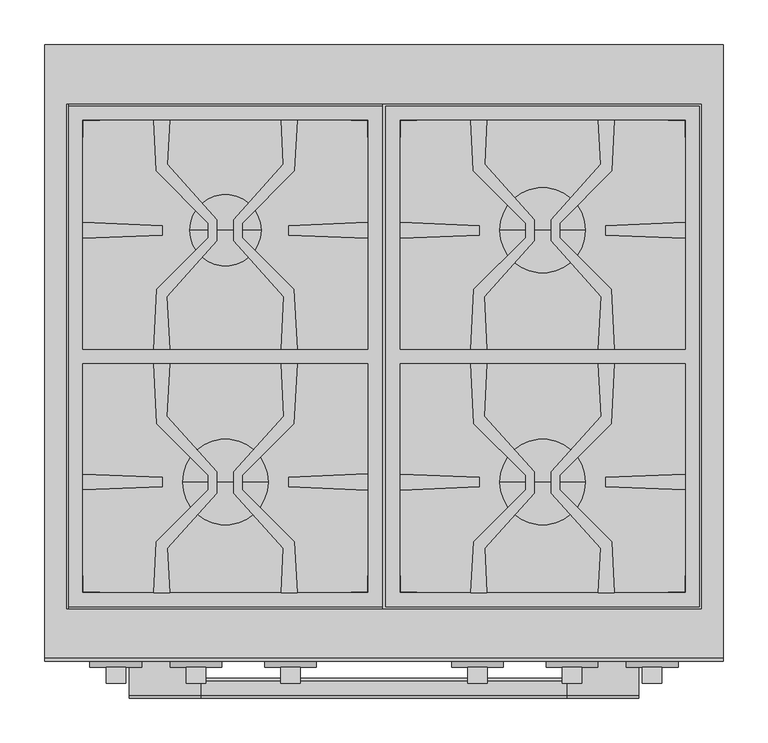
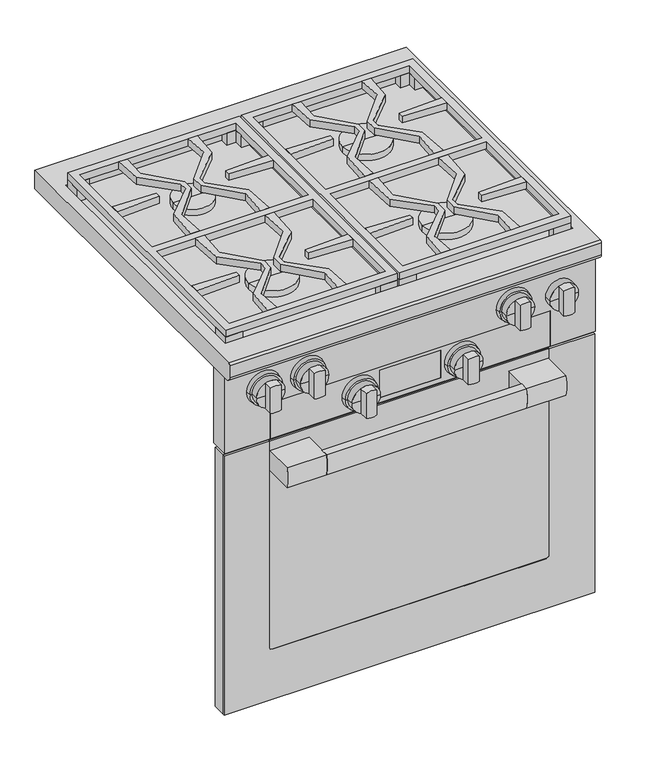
"""IFC4 building model written with IfcOpenShell, lengths in millimetres: proxy geometry, 11791390_USA_HR1124-3LP_EDST-CLS : 25112482_USA_11791390_HR1124-3LP_EDST-CLS."""

from ifc_helpers import new_model, si_unit, point, frame, frame_2d, origin, place, context, project, spatial, polyline, circle_curve, trimmed, segment, composite_curve, outline, extrude, faceted_brep, source, transform, mapped, element, save
from ifc_brep_helpers import plane_surface, cylinder_surface, revolved_surface, advanced_brep


def specialty_equipment_1acf6e52(model_context):
    return source(origin(), model_context, "Body", "SolidModel", [
        extrude(outline(composite_curve([segment(polyline([(-714.0, 624.0), (-731.0, 624.0)]), True, "CONTINUOUS"), segment(trimmed(circle_curve(frame_2d((-655.4583333, 645.5)), 78.5416667), [point((-731.0, 624.0))], [point((-731.0, 667.0))], False, "CARTESIAN"), True, "CONTINUOUS"), segment(polyline([(-731.0, 667.0), (-714.0, 667.0)]), True, "CONTINUOUS"), segment(trimmed(circle_curve(frame_2d((-789.5416667, 645.5)), 78.5416667), [point((-714.0, 667.0))], [point((-714.0, 624.0))], False, "CARTESIAN"), True, "CONTINUOUS")], self_intersect=False)), frame((-205.0, 0.0, 0.0), z_axis=(1.0, 0.0, 0.0), x_axis=(0.0, 1.0, 0.0)), (0.0, 0.0, 1.0), 410.0),
        extrude(outline(composite_curve([segment(polyline([(-731.0, 667.0), (-668.7, 667.0), (-668.7, 624.0), (-731.0, 624.0)]), True, "CONTINUOUS"), segment(trimmed(circle_curve(frame_2d((-655.4583333, 645.5)), 78.5416667), [point((-731.0, 624.0))], [point((-731.0, 667.0))], False, "CARTESIAN"), True, "CONTINUOUS")], self_intersect=False)), frame((205.0, 0.0, 0.0), z_axis=(1.0, 0.0, 0.0), x_axis=(0.0, 1.0, 0.0)), (0.0, 0.0, 1.0), 81.0),
        extrude(outline(composite_curve([segment(polyline([(-668.7, 667.0), (-668.7, 624.0), (-731.0, 624.0)]), True, "CONTINUOUS"), segment(trimmed(circle_curve(frame_2d((-655.4583333, 645.5)), 78.5416667), [point((-731.0, 624.0))], [point((-731.0, 667.0))], False, "CARTESIAN"), True, "CONTINUOUS"), segment(polyline([(-731.0, 667.0), (-668.7, 667.0)]), True, "CONTINUOUS")], self_intersect=False)), frame((-286.0, 0.0, 0.0), z_axis=(1.0, 0.0, 0.0), x_axis=(0.0, 1.0, 0.0)), (0.0, 0.0, 1.0), 81.0),
        extrude(outline(polyline([(-380.0, -638.0), (380.0, -638.0), (380.0, -664.7), (-380.0, -664.7), (-380.0, -638.0)])), frame((0.0, 0.0, 127.0), z_axis=(0.0, 0.0, 1.0), x_axis=(1.0, 0.0, 0.0)), (0.0, 0.0, 1.0), 561.0),
        extrude(outline(polyline([(-379.0, -664.7), (379.0, -664.7), (379.0, -668.7), (-379.0, -668.7), (-379.0, -664.7)])), frame((0.0, 0.0, 128.0), z_axis=(0.0, 0.0, 1.0), x_axis=(1.0, 0.0, 0.0)), (0.0, 0.0, 1.0), 559.0),
        advanced_brep(
        [(287.0, -664.7, 688.0), (380.0, -664.7, 688.0), (380.0, -664.7, 127.0), (-380.0, -664.7, 127.0), (-380.0, -664.7, 688.0), (-287.0, -664.7, 688.0), (-287.0, -664.7, 687.0), (-379.0, -664.7, 687.0), (-379.0, -664.7, 128.0), (379.0, -664.7, 128.0), (379.0, -664.7, 687.0), (287.0, -664.7, 687.0), (-287.0, -670.0, 688.0), (-380.0, -670.0, 688.0), (-380.0, -670.0, 127.0), (380.0, -670.0, 127.0), (380.0, -670.0, 688.0), (287.0, -670.0, 688.0), (287.0, -670.0, 241.0), (281.0, -670.0, 235.0), (-281.0, -670.0, 235.0), (-287.0, -670.0, 241.0), (-287.0, -668.7, 241.0), (-287.0, -668.7, 687.0), (281.0, -668.7, 235.0), (-281.0, -668.7, 235.0), (287.0, -668.7, 687.0), (287.0, -668.7, 241.0), (379.0, -668.7, 687.0), (379.0, -668.7, 128.0), (-379.0, -668.7, 128.0), (-379.0, -668.7, 687.0)],
        [
            (0, 1),
            (1, 2),
            (2, 3),
            (3, 4),
            (4, 5),
            (5, 6),
            (6, 7),
            (7, 8),
            (8, 9),
            (9, 10),
            (10, 11),
            (11, 0),
            (12, 13),
            (13, 14),
            (14, 15),
            (15, 16),
            (16, 17),
            (17, 18),
            (18, 19, circle_curve(frame((281.0, -670.0, 241.0), z_axis=(0.0, 1.0, 0.0), x_axis=(-1.0, 0.0, 0.0)), 6.0)),
            (19, 20),
            (20, 21, circle_curve(frame((-281.0, -670.0, 241.0), z_axis=(0.0, 1.0, 0.0), x_axis=(-1.0, 0.0, 0.0)), 6.0)),
            (21, 12),
            (21, 22),
            (22, 23),
            (23, 6),
            (5, 12),
            (19, 24),
            (24, 25),
            (25, 20),
            (17, 0),
            (11, 26),
            (26, 27),
            (27, 18),
            (16, 1),
            (15, 2),
            (14, 3),
            (13, 4),
            (25, 22, circle_curve(frame((-281.0, -668.7, 241.0), z_axis=(0.0, 1.0, 0.0), x_axis=(-1.0, 0.0, 0.0)), 6.0)),
            (27, 24, circle_curve(frame((281.0, -668.7, 241.0), z_axis=(0.0, 1.0, 0.0), x_axis=(-1.0, 0.0, 0.0)), 6.0)),
            (28, 29),
            (29, 30),
            (30, 31),
            (31, 23),
            (26, 28),
            (28, 10),
            (9, 29),
            (8, 30),
            (7, 31),
        ],
        [
            plane_surface(frame((-287.0, -664.7, 241.0), z_axis=(0.0, 1.0, 0.0), x_axis=(0.0, 0.0, -1.0))),
            plane_surface(frame((-287.0, -670.0, 241.0), z_axis=(0.0, -1.0, 0.0), x_axis=(0.0, 0.0, 1.0))),
            plane_surface(frame((-287.0, -664.7, 688.0), z_axis=(1.0, 0.0, 0.0), x_axis=(0.0, -1.0, 0.0))),
            plane_surface(frame((-281.0, -664.7, 235.0), z_axis=(0.0, 0.0, 1.0), x_axis=(0.0, -1.0, 0.0))),
            plane_surface(frame((287.0, -664.7, 241.0), z_axis=(-1.0, 0.0, 0.0), x_axis=(0.0, -1.0, 0.0))),
            plane_surface(frame((287.0, -664.7, 688.0), z_axis=(0.0, 0.0, 1.0), x_axis=(0.0, -1.0, 0.0))),
            plane_surface(frame((380.0, -664.7, 688.0), z_axis=(1.0, 0.0, 0.0), x_axis=(0.0, -1.0, 0.0))),
            plane_surface(frame((380.0, -664.7, 127.0), z_axis=(0.0, 0.0, -1.0), x_axis=(0.0, -1.0, 0.0))),
            plane_surface(frame((-380.0, -664.7, 127.0), z_axis=(-1.0, 0.0, 0.0), x_axis=(0.0, -1.0, 0.0))),
            plane_surface(frame((-380.0, -664.7, 688.0), z_axis=(0.0, 0.0, 1.0), x_axis=(0.0, -1.0, 0.0))),
            revolved_surface(polyline([(-287.0, -670.0, 241.0), (-287.0, -668.7, 241.0)]), (-281.0, -670.0, 241.0), (0.0, -1.0, 0.0)),
            revolved_surface(polyline([(275.0, -670.0, 241.0), (275.0, -668.7, 241.0)]), (281.0, -670.0, 241.0), (0.0, -1.0, 0.0)),
            plane_surface(frame((379.0, -668.7, 687.0), z_axis=(0.0, 1.0, 0.0), x_axis=(0.0, 0.0, 1.0))),
            plane_surface(frame((379.0, -664.7, 687.0), z_axis=(-1.0, 0.0, 0.0), x_axis=(0.0, -1.0, 0.0))),
            plane_surface(frame((379.0, -664.7, 128.0), z_axis=(0.0, 0.0, 1.0), x_axis=(0.0, -1.0, 0.0))),
            plane_surface(frame((-379.0, -664.7, 128.0), z_axis=(1.0, 0.0, 0.0), x_axis=(0.0, -1.0, 0.0))),
            plane_surface(frame((-379.0, -664.7, 687.0), z_axis=(0.0, 0.0, -1.0), x_axis=(0.0, -1.0, 0.0))),
        ],
        [
            (0, [[1, 2, 3, 4, 5, 6, 7, 8, 9, 10, 11, 12]]),
            (1, [[13, 14, 15, 16, 17, 18, 19, 20, 21, 22]]),
            (2, [[-22, 23, 24, 25, -6, 26]]),
            (3, [[-20, 27, 28, 29]]),
            (4, [[-18, 30, -12, 31, 32, 33]]),
            (5, [[-1, -30, -17, 34]]),
            (6, [[-2, -34, -16, 35]]),
            (7, [[-3, -35, -15, 36]]),
            (8, [[-4, -36, -14, 37]]),
            (9, [[-5, -37, -13, -26]]),
            (10, [[-21, -29, 38, -23]]),
            (11, [[-19, -33, 39, -27]]),
            (12, [[40, 41, 42, 43, -24, -38, -28, -39, -32, 44]]),
            (13, [[-40, 45, -10, 46]]),
            (14, [[-41, -46, -9, 47]]),
            (15, [[-42, -47, -8, 48]]),
            (16, [[-45, -44, -31, -11]]),
            (16, [[-48, -7, -25, -43]]),
        ],
    ),
        extrude(outline(polyline([(-351.0, -617.0), (351.0, -617.0), (351.0, -638.0), (-351.0, -638.0), (-351.0, -617.0)])), frame((0.0, 0.0, 133.0), z_axis=(0.0, 0.0, 1.0), x_axis=(1.0, 0.0, 0.0)), (0.0, 0.0, 1.0), 550.0),
        extrude(outline(polyline([(97.4177304, -358.0273828), (115.4174107, -358.0273828), (112.3474419, -416.9894265), (168.4590566, -479.568392), (168.4590566, -503.4471434), (112.8930533, -565.5024535), (115.5051055, -615.0212482), (97.5054252, -615.0212482), (100.4706458, -558.0710081), (158.8494553, -499.6921986), (158.8494553, -483.3657133), (100.9764383, -425.4926963), (97.4177304, -358.0273828)])), frame((0.0, 0.0, 914.0), z_axis=(0.0, 0.0, 1.0), x_axis=(1.0, 0.0, 0.0)), (0.0, 0.0, 1.0), 15.0),
        extrude(outline(polyline([(243.5666917, -416.9448139), (240.4588735, -358.0273828), (258.4534566, -358.0273828), (254.9434746, -425.4403498), (197.0712231, -483.3126013), (197.0712231, -499.6295194), (255.5438392, -558.1021355), (258.5462487, -615.0212482), (240.541471, -615.0212482), (243.1220648, -565.4581775), (187.4590702, -503.3795395), (187.4590702, -479.6049953), (243.5666917, -416.9448139)])), frame((0.0, 0.0, 914.0), z_axis=(0.0, 0.0, 1.0), x_axis=(1.0, 0.0, 0.0)), (0.0, 0.0, 1.0), 15.0),
        extrude(outline(polyline([(-258.5822696, -358.0273828), (-240.5825893, -358.0273828), (-243.6525581, -416.9894265), (-187.5409434, -479.568392), (-187.5409434, -503.4471434), (-243.1069467, -565.5024535), (-240.4948945, -615.0212482), (-258.4945748, -615.0212482), (-255.5293542, -558.0710081), (-197.1505447, -499.6921986), (-197.1505447, -483.3657133), (-255.0235617, -425.4926963), (-258.5822696, -358.0273828)])), frame((0.0, 0.0, 914.0), z_axis=(0.0, 0.0, 1.0), x_axis=(1.0, 0.0, 0.0)), (0.0, 0.0, 1.0), 15.0),
        extrude(outline(polyline([(-115.5411265, -358.0273828), (-97.5465434, -358.0273828), (-101.0565254, -425.4403498), (-158.9287769, -483.3126013), (-158.9287769, -499.6295194), (-100.4561608, -558.1021355), (-97.4537513, -615.0212482), (-115.458529, -615.0212482), (-112.8779352, -565.4581775), (-168.5409298, -503.3795395), (-168.5409298, -479.6049953), (-112.4333083, -416.9448139), (-115.5411265, -358.0273828)])), frame((0.0, 0.0, 914.0), z_axis=(0.0, 0.0, 1.0), x_axis=(1.0, 0.0, 0.0)), (0.0, 0.0, 1.0), 15.0),
        extrude(outline(polyline([(-258.5385862, -85.0), (-240.5385862, -85.0), (-243.1338026, -134.5196799), (-187.5, -196.6082182), (-187.5, -220.3917818), (-243.6289218, -283.0328838), (-240.5385862, -342.0), (-258.5385862, -342.0), (-255.0028157, -274.5334805), (-197.1108918, -216.6415566), (-197.1108918, -200.3584434), (-255.5558783, -141.9134569), (-258.5385862, -85.0)])), frame((0.0, 0.0, 914.0), z_axis=(0.0, 0.0, 1.0), x_axis=(1.0, 0.0, 0.0)), (0.0, 0.0, 1.0), 15.0),
        extrude(outline(polyline([(-115.5, -85.0), (-97.5, -85.0), (-100.4827079, -141.9134569), (-158.8891082, -200.3198573), (-158.8891082, -216.6801428), (-101.0357705, -274.5334805), (-97.5, -342.0), (-115.5, -342.0), (-112.4096644, -283.0328839), (-168.5, -220.4348449), (-168.5, -196.5651551), (-112.9047835, -134.5196799), (-115.5, -85.0)])), frame((0.0, 0.0, 914.0), z_axis=(0.0, 0.0, 1.0), x_axis=(1.0, 0.0, 0.0)), (0.0, 0.0, 1.0), 15.0),
        extrude(outline(polyline([(115.4614138, -85.0), (112.8661974, -134.5196799), (168.5, -196.6082182), (168.5, -220.3917818), (112.3710782, -283.0328838), (115.4614138, -342.0), (97.4614138, -342.0), (100.9971843, -274.5334805), (158.8891082, -216.6415566), (158.8891082, -200.3584434), (100.4441217, -141.9134569), (97.4614138, -85.0), (115.4614138, -85.0)])), frame((0.0, 0.0, 914.0), z_axis=(0.0, 0.0, 1.0), x_axis=(1.0, 0.0, 0.0)), (0.0, 0.0, 1.0), 15.0),
        extrude(outline(polyline([(243.0952165, -134.5196799), (240.5, -85.0), (258.5, -85.0), (255.5172921, -141.9134569), (197.1108918, -200.3198573), (197.1108918, -216.6801428), (254.9642295, -274.5334805), (258.5, -342.0), (240.5, -342.0), (243.5903356, -283.0328839), (187.5, -220.4348449), (187.5, -196.5651551), (243.0952165, -134.5196799)])), frame((0.0, 0.0, 914.0), z_axis=(0.0, 0.0, 1.0), x_axis=(1.0, 0.0, 0.0)), (0.0, 0.0, 1.0), 15.0),
        extrude(outline(polyline([(354.0, -69.0), (354.0, -631.0), (2.0, -631.0), (2.0, -69.0), (354.0, -69.0)])), frame((0.0, 0.0, 870.0), z_axis=(0.0, 0.0, 1.0), x_axis=(1.0, 0.0, 0.0)), (0.0, 0.0, 1.0), 17.0),
        extrude(outline(polyline([(-2.0, -67.0), (-2.0, -633.0), (-354.0, -633.0), (-354.0, -67.0), (-2.0, -67.0)])), frame((0.0, 0.0, 870.0), z_axis=(0.0, 0.0, 1.0), x_axis=(1.0, 0.0, 0.0)), (0.0, 0.0, 1.0), 17.0),
        extrude(outline(polyline([(-249.0, -213.7921261), (-338.0, -217.4578849), (-338.0, -199.5421151), (-249.0, -203.2078739), (-249.0, -213.7921261)])), frame((0.0, 0.0, 914.0), z_axis=(0.0, 0.0, 1.0), x_axis=(1.0, 0.0, 0.0)), (0.0, 0.0, 1.0), 15.0),
        extrude(outline(polyline([(-18.0, -199.5029948), (-18.0, -217.4970052), (-107.0, -213.7790477), (-107.0, -203.2209523), (-18.0, -199.5029948)])), frame((0.0, 0.0, 914.0), z_axis=(0.0, 0.0, 1.0), x_axis=(1.0, 0.0, 0.0)), (0.0, 0.0, 1.0), 15.0),
        extrude(outline(polyline([(-249.0, -496.2921261), (-338.0, -499.9578849), (-338.0, -482.0421151), (-249.0, -485.7078739), (-249.0, -496.2921261)])), frame((0.0, 0.0, 914.0), z_axis=(0.0, 0.0, 1.0), x_axis=(1.0, 0.0, 0.0)), (0.0, 0.0, 1.0), 15.0),
        extrude(outline(polyline([(-18.0, -482.0029948), (-18.0, -499.9970052), (-107.0, -496.2790477), (-107.0, -485.7209523), (-18.0, -482.0029948)])), frame((0.0, 0.0, 914.0), z_axis=(0.0, 0.0, 1.0), x_axis=(1.0, 0.0, 0.0)), (0.0, 0.0, 1.0), 15.0),
        extrude(outline(polyline([(-2.0, -631.0), (-37.0, -631.0), (-37.0, -615.0), (-18.0, -615.0), (-18.0, -596.0), (-2.0, -596.0), (-2.0, -631.0)])), frame((0.0, 0.0, 887.0), z_axis=(0.0, 0.0, 1.0), x_axis=(1.0, 0.0, 0.0)), (0.0, 0.0, 1.0), 27.0),
        extrude(outline(polyline([(-354.0, -631.0), (-354.0, -596.0), (-338.0, -596.0), (-338.0, -615.0), (-319.0, -615.0), (-319.0, -631.0), (-354.0, -631.0)])), frame((0.0, 0.0, 887.0), z_axis=(0.0, 0.0, 1.0), x_axis=(1.0, 0.0, 0.0)), (0.0, 0.0, 1.0), 27.0),
        extrude(outline(polyline([(-2.0, -69.0), (-2.0, -104.0), (-18.0, -104.0), (-18.0, -85.0), (-37.0, -85.0), (-37.0, -69.0), (-2.0, -69.0)])), frame((0.0, 0.0, 887.0), z_axis=(0.0, 0.0, 1.0), x_axis=(1.0, 0.0, 0.0)), (0.0, 0.0, 1.0), 27.0),
        extrude(outline(polyline([(-354.0, -69.0), (-319.0, -69.0), (-319.0, -85.0), (-338.0, -85.0), (-338.0, -104.0), (-354.0, -104.0), (-354.0, -69.0)])), frame((0.0, 0.0, 887.0), z_axis=(0.0, 0.0, 1.0), x_axis=(1.0, 0.0, 0.0)), (0.0, 0.0, 1.0), 27.0),
        extrude(outline(polyline([(18.0337834, -499.9810574), (18.0337834, -482.0189426), (107.0337834, -485.7078739), (107.0337834, -496.2921261), (18.0337834, -499.9810574)])), frame((0.0, 0.0, 914.0), z_axis=(0.0, 0.0, 1.0), x_axis=(1.0, 0.0, 0.0)), (0.0, 0.0, 1.0), 15.0),
        extrude(outline(polyline([(338.0337834, -482.0262039), (338.0337834, -499.9737961), (249.0337834, -496.2790477), (249.0337834, -485.7209523), (338.0337834, -482.0262039)])), frame((0.0, 0.0, 914.0), z_axis=(0.0, 0.0, 1.0), x_axis=(1.0, 0.0, 0.0)), (0.0, 0.0, 1.0), 15.0),
        extrude(outline(polyline([(18.0337834, -217.4810574), (18.0337834, -199.5189426), (107.0337834, -203.2078739), (107.0337834, -213.7921261), (18.0337834, -217.4810574)])), frame((0.0, 0.0, 914.0), z_axis=(0.0, 0.0, 1.0), x_axis=(1.0, 0.0, 0.0)), (0.0, 0.0, 1.0), 15.0),
        extrude(outline(polyline([(338.0337834, -199.5262039), (338.0337834, -217.4737961), (249.0337834, -213.7790477), (249.0337834, -203.2209523), (338.0337834, -199.5262039)])), frame((0.0, 0.0, 914.0), z_axis=(0.0, 0.0, 1.0), x_axis=(1.0, 0.0, 0.0)), (0.0, 0.0, 1.0), 15.0),
        extrude(outline(polyline([(-2.0, -69.0), (-2.0, -631.0), (-354.0, -631.0), (-354.0, -69.0), (-2.0, -69.0)]), holes=[polyline([(-18.0, -85.0), (-338.0, -85.0), (-338.0, -342.0), (-18.0, -342.0), (-18.0, -85.0)]), polyline([(-338.0, -358.0), (-338.0, -615.0), (-18.0, -615.0), (-18.0, -358.0), (-338.0, -358.0)])]), frame((0.0, 0.0, 914.0), z_axis=(0.0, 0.0, 1.0), x_axis=(1.0, 0.0, 0.0)), (0.0, 0.0, 1.0), 15.0),
        extrude(outline(polyline([(354.0, -69.0), (354.0, -631.0), (2.0, -631.0), (2.0, -69.0), (354.0, -69.0)]), holes=[polyline([(338.0337834, -85.0), (18.0337834, -85.0), (18.0337834, -342.0), (338.0337834, -342.0), (338.0337834, -85.0)]), polyline([(18.0337834, -358.0), (18.0337834, -615.0), (338.0337834, -615.0), (338.0337834, -358.0), (18.0337834, -358.0)])]), frame((0.0, 0.0, 914.0), z_axis=(0.0, 0.0, 1.0), x_axis=(1.0, 0.0, 0.0)), (0.0, 0.0, 1.0), 15.0),
        extrude(outline(polyline([(354.0, -631.0), (319.0, -631.0), (319.0, -615.0), (338.0337834, -615.0), (338.0337834, -596.0), (354.0, -596.0), (354.0, -631.0)])), frame((0.0, 0.0, 887.0), z_axis=(0.0, 0.0, 1.0), x_axis=(1.0, 0.0, 0.0)), (0.0, 0.0, 1.0), 27.0),
        extrude(outline(polyline([(2.0, -631.0), (2.0, -596.0), (18.0337834, -596.0), (18.0337834, -615.0), (37.0, -615.0), (37.0, -631.0), (2.0, -631.0)])), frame((0.0, 0.0, 887.0), z_axis=(0.0, 0.0, 1.0), x_axis=(1.0, 0.0, 0.0)), (0.0, 0.0, 1.0), 27.0),
        extrude(outline(polyline([(354.0, -69.0), (354.0, -104.0), (338.0337834, -104.0), (338.0337834, -85.0), (319.0, -85.0), (319.0, -69.0), (354.0, -69.0)])), frame((0.0, 0.0, 887.0), z_axis=(0.0, 0.0, 1.0), x_axis=(1.0, 0.0, 0.0)), (0.0, 0.0, 1.0), 27.0),
        extrude(outline(polyline([(2.0, -69.0), (37.0, -69.0), (37.0, -85.0), (18.0337834, -85.0), (18.0337834, -104.0), (2.0, -104.0), (2.0, -69.0)])), frame((0.0, 0.0, 887.0), z_axis=(0.0, 0.0, 1.0), x_axis=(1.0, 0.0, 0.0)), (0.0, 0.0, 1.0), 27.0),
        advanced_brep(
        [(130.0, -208.5, 887.0), (226.0, -208.5, 887.0), (226.0, -208.5, 901.0), (130.0, -208.5, 901.0), (178.0, -208.5, 887.0), (178.0, -208.5, 901.0)],
        [
            (0, 1, circle_curve(frame((178.0, -208.5, 887.0), z_axis=(0.0, 0.0, 1.0), x_axis=(1.0, 0.0, 0.0)), 48.0)),
            (1, 2),
            (2, 3, circle_curve(frame((178.0, -208.5, 901.0), z_axis=(0.0, 0.0, -1.0), x_axis=(1.0, 0.0, 0.0)), 48.0)),
            (3, 0),
            (1, 0, circle_curve(frame((178.0, -208.5, 887.0), z_axis=(0.0, 0.0, 1.0), x_axis=(1.0, 0.0, 0.0)), 48.0)),
            (3, 2, circle_curve(frame((178.0, -208.5, 901.0), z_axis=(0.0, 0.0, -1.0), x_axis=(1.0, 0.0, 0.0)), 48.0)),
            (4, 1),
            (0, 4),
            (2, 5),
            (5, 3),
        ],
        [
            cylinder_surface(frame((178.0, -208.5, 2338.4), z_axis=(0.0, 0.0, -1.0), x_axis=(1.0, 0.0, 0.0)), 48.0),
            plane_surface(frame((178.0, -208.5, 887.0), z_axis=(0.0, 0.0, -1.0), x_axis=(1.0, 0.0, 0.0))),
            plane_surface(frame((178.0, -208.5, 901.0), z_axis=(0.0, 0.0, 1.0), x_axis=(1.0, 0.0, 0.0))),
        ],
        [
            (0, [[1, 2, 3, 4]]),
            (0, [[5, -4, 6, -2]]),
            (1, [[7, -1, 8]]),
            (1, [[-8, -5, -7]]),
            (2, [[-3, 9, 10]]),
            (2, [[-6, -10, -9]]),
        ],
    ),
        advanced_brep(
        [(-178.0, -208.5, 887.0), (-138.0, -208.5, 887.0), (-218.0, -208.5, 887.0), (-218.0, -208.5, 901.0), (-138.0, -208.5, 901.0), (-178.0, -208.5, 901.0)],
        [
            (0, 1),
            (1, 2, circle_curve(frame((-178.0, -208.5, 887.0), z_axis=(0.0, 0.0, -1.0), x_axis=(1.0, 0.0, 0.0)), 40.0)),
            (2, 0),
            (2, 1, circle_curve(frame((-178.0, -208.5, 887.0), z_axis=(0.0, 0.0, -1.0), x_axis=(1.0, 0.0, 0.0)), 40.0)),
            (3, 4, circle_curve(frame((-178.0, -208.5, 901.0), z_axis=(0.0, 0.0, 1.0), x_axis=(1.0, 0.0, 0.0)), 40.0)),
            (4, 5),
            (5, 3),
            (4, 3, circle_curve(frame((-178.0, -208.5, 901.0), z_axis=(0.0, 0.0, 1.0), x_axis=(1.0, 0.0, 0.0)), 40.0)),
            (1, 4),
            (3, 2),
        ],
        [
            plane_surface(frame((-178.0, -208.5, 887.0), z_axis=(0.0, 0.0, -1.0), x_axis=(1.0, 0.0, 0.0))),
            plane_surface(frame((-178.0, -208.5, 901.0), z_axis=(0.0, 0.0, 1.0), x_axis=(1.0, 0.0, 0.0))),
            cylinder_surface(frame((-178.0, -208.5, 2424.4), z_axis=(0.0, 0.0, -1.0), x_axis=(1.0, 0.0, 0.0)), 40.0),
        ],
        [
            (0, [[1, 2, 3]]),
            (0, [[-3, 4, -1]]),
            (1, [[5, 6, 7]]),
            (1, [[8, -7, -6]]),
            (2, [[-2, 9, -5, 10]]),
            (2, [[-4, -10, -8, -9]]),
        ],
    ),
        advanced_brep(
        [(-226.0, -491.0, 887.0), (-130.0, -491.0, 887.0), (-130.0, -491.0, 901.0), (-226.0, -491.0, 901.0), (-178.0, -491.0, 887.0), (-178.0, -491.0, 901.0)],
        [
            (0, 1, circle_curve(frame((-178.0, -491.0, 887.0), z_axis=(0.0, 0.0, 1.0), x_axis=(1.0, 0.0, 0.0)), 48.0)),
            (1, 2),
            (2, 3, circle_curve(frame((-178.0, -491.0, 901.0), z_axis=(0.0, 0.0, -1.0), x_axis=(1.0, 0.0, 0.0)), 48.0)),
            (3, 0),
            (1, 0, circle_curve(frame((-178.0, -491.0, 887.0), z_axis=(0.0, 0.0, 1.0), x_axis=(1.0, 0.0, 0.0)), 48.0)),
            (3, 2, circle_curve(frame((-178.0, -491.0, 901.0), z_axis=(0.0, 0.0, -1.0), x_axis=(1.0, 0.0, 0.0)), 48.0)),
            (4, 1),
            (0, 4),
            (2, 5),
            (5, 3),
        ],
        [
            cylinder_surface(frame((-178.0, -491.0, 2424.4), z_axis=(0.0, 0.0, -1.0), x_axis=(1.0, 0.0, 0.0)), 48.0),
            plane_surface(frame((-178.0, -491.0, 887.0), z_axis=(0.0, 0.0, -1.0), x_axis=(1.0, 0.0, 0.0))),
            plane_surface(frame((-178.0, -491.0, 901.0), z_axis=(0.0, 0.0, 1.0), x_axis=(1.0, 0.0, 0.0))),
        ],
        [
            (0, [[1, 2, 3, 4]]),
            (0, [[5, -4, 6, -2]]),
            (1, [[7, -1, 8]]),
            (1, [[-8, -5, -7]]),
            (2, [[-3, 9, 10]]),
            (2, [[-6, -10, -9]]),
        ],
    ),
        advanced_brep(
        [(130.0, -491.0, 887.0), (226.0, -491.0, 887.0), (226.0, -491.0, 901.0), (130.0, -491.0, 901.0), (178.0, -491.0, 887.0), (178.0, -491.0, 901.0)],
        [
            (0, 1, circle_curve(frame((178.0, -491.0, 887.0), z_axis=(0.0, 0.0, 1.0), x_axis=(1.0, 0.0, 0.0)), 48.0)),
            (1, 2),
            (2, 3, circle_curve(frame((178.0, -491.0, 901.0), z_axis=(0.0, 0.0, -1.0), x_axis=(1.0, 0.0, 0.0)), 48.0)),
            (3, 0),
            (1, 0, circle_curve(frame((178.0, -491.0, 887.0), z_axis=(0.0, 0.0, 1.0), x_axis=(1.0, 0.0, 0.0)), 48.0)),
            (3, 2, circle_curve(frame((178.0, -491.0, 901.0), z_axis=(0.0, 0.0, -1.0), x_axis=(1.0, 0.0, 0.0)), 48.0)),
            (4, 1),
            (0, 4),
            (2, 5),
            (5, 3),
        ],
        [
            cylinder_surface(frame((178.0, -491.0, 2424.4), z_axis=(0.0, 0.0, -1.0), x_axis=(1.0, 0.0, 0.0)), 48.0),
            plane_surface(frame((178.0, -491.0, 887.0), z_axis=(0.0, 0.0, -1.0), x_axis=(1.0, 0.0, 0.0))),
            plane_surface(frame((178.0, -491.0, 901.0), z_axis=(0.0, 0.0, 1.0), x_axis=(1.0, 0.0, 0.0))),
        ],
        [
            (0, [[1, 2, 3, 4]]),
            (0, [[5, -4, 6, -2]]),
            (1, [[7, -1, 8]]),
            (1, [[-8, -5, -7]]),
            (2, [[-3, 9, 10]]),
            (2, [[-6, -10, -9]]),
        ],
    ),
        advanced_brep(
        [(381.0, 0.0, 902.0), (381.0, -688.3499547, 902.0), (381.0, -692.0, 898.3499547), (381.0, -692.0, 872.0), (381.0, -682.0, 862.0), (381.0, 0.0, 862.0), (-381.0, 0.0, 902.0), (-381.0, 0.0, 862.0), (-381.0, -682.0, 862.0), (-381.0, -692.0, 872.0), (-381.0, -692.0, 898.3499547), (-381.0, -688.3499547, 902.0), (-356.0, -67.0, 902.0), (356.0, -67.0, 902.0), (356.0, -633.0, 902.0), (-356.0, -633.0, 902.0), (356.0, -67.0, 870.0), (-356.0, -67.0, 870.0), (-356.0, -633.0, 870.0), (356.0, -633.0, 870.0)],
        [
            (0, 1),
            (1, 2, circle_curve(frame((381.0, -688.0, 898.0), z_axis=(1.0, 0.0, 0.0), x_axis=(0.0, 0.0, 1.0)), 4.0152794)),
            (2, 3),
            (3, 4, circle_curve(frame((381.0, -682.0, 872.0), z_axis=(1.0, 0.0, 0.0), x_axis=(0.0, 0.0, 1.0)), 10.0)),
            (4, 5),
            (5, 0),
            (6, 7),
            (7, 8),
            (8, 9, circle_curve(frame((-381.0, -682.0, 872.0), z_axis=(-1.0, 0.0, 0.0), x_axis=(0.0, 0.0, 1.0)), 10.0)),
            (9, 10),
            (10, 11, circle_curve(frame((-381.0, -688.0, 898.0), z_axis=(-1.0, 0.0, 0.0), x_axis=(0.0, 0.0, 1.0)), 4.0152794)),
            (11, 6),
            (0, 6),
            (11, 1),
            (12, 13),
            (13, 14),
            (14, 15),
            (15, 12),
            (10, 2),
            (9, 3),
            (8, 4),
            (7, 5),
            (16, 17),
            (17, 18),
            (18, 19),
            (19, 16),
            (16, 13),
            (12, 17),
            (15, 18),
            (14, 19),
        ],
        [
            plane_surface(frame((381.0, -688.3499547, 902.0), z_axis=(1.0, 0.0, 0.0), x_axis=(0.0, -1.0, 0.0))),
            plane_surface(frame((-381.0, -688.3499547, 902.0), z_axis=(-1.0, 0.0, 0.0), x_axis=(0.0, 1.0, 0.0))),
            plane_surface(frame((381.0, 0.0, 902.0), z_axis=(0.0, 0.0, 1.0), x_axis=(-1.0, 0.0, 0.0))),
            cylinder_surface(frame((-381.0, -688.0, 898.0), z_axis=(1.0, 0.0, 0.0), x_axis=(0.0, 0.0, 1.0)), 4.0152794),
            plane_surface(frame((381.0, -692.0, 898.3499547), z_axis=(0.0, -1.0, 0.0), x_axis=(-1.0, 0.0, 0.0))),
            cylinder_surface(frame((-381.0, -682.0, 872.0), z_axis=(1.0, 0.0, 0.0), x_axis=(0.0, 0.0, 1.0)), 10.0),
            plane_surface(frame((381.0, -682.0, 862.0), z_axis=(0.0, 0.0, -1.0), x_axis=(-1.0, 0.0, 0.0))),
            plane_surface(frame((381.0, 0.0, 862.0), z_axis=(0.0, 1.0, 0.0), x_axis=(-1.0, 0.0, 0.0))),
            plane_surface(frame((-356.0, -67.0, 870.0), z_axis=(0.0, 0.0, 1.0), x_axis=(1.0, 0.0, 0.0))),
            plane_surface(frame((356.0, -67.0, 902.0), z_axis=(0.0, -1.0, 0.0), x_axis=(0.0, 0.0, -1.0))),
            plane_surface(frame((-356.0, -67.0, 902.0), z_axis=(1.0, 0.0, 0.0), x_axis=(0.0, 0.0, -1.0))),
            plane_surface(frame((-356.0, -633.0, 902.0), z_axis=(0.0, 1.0, 0.0), x_axis=(0.0, 0.0, -1.0))),
            plane_surface(frame((356.0, -633.0, 902.0), z_axis=(-1.0, 0.0, 0.0), x_axis=(0.0, 0.0, -1.0))),
        ],
        [
            (0, [[1, 2, 3, 4, 5, 6]]),
            (1, [[7, 8, 9, 10, 11, 12]]),
            (2, [[-1, 13, -12, 14], [15, 16, 17, 18]]),
            (3, [[-2, -14, -11, 19]]),
            (4, [[-3, -19, -10, 20]]),
            (5, [[-4, -20, -9, 21]]),
            (6, [[-5, -21, -8, 22]]),
            (7, [[-6, -22, -7, -13]]),
            (8, [[23, 24, 25, 26]]),
            (9, [[-23, 27, -15, 28]]),
            (10, [[-24, -28, -18, 29]]),
            (11, [[-25, -29, -17, 30]]),
            (12, [[-26, -30, -16, -27]]),
        ],
    ),
        extrude(outline(composite_curve([segment(polyline([(759.8328157, 94.0), (706.1671843, 94.0)]), True, "CONTINUOUS"), segment(trimmed(circle_curve(frame_2d((733.0, 105.0)), 29.0), [point((706.1671843, 94.0))], [point((706.1671843, 116.0))], False, "CARTESIAN"), True, "CONTINUOUS"), segment(polyline([(706.1671843, 116.0), (759.8328157, 116.0)]), True, "CONTINUOUS"), segment(trimmed(circle_curve(frame_2d((733.0, 105.0)), 29.0), [point((759.8328157, 116.0))], [point((759.8328157, 94.0))], False, "CARTESIAN"), True, "CONTINUOUS")], self_intersect=False)), frame((0.0, -717.0, 0.0), z_axis=(0.0, 1.0, 0.0), x_axis=(0.0, 0.0, 1.0)), (0.0, 0.0, 1.0), 18.0),
        extrude(outline(composite_curve([segment(polyline([(759.8328157, -116.0), (706.1671843, -116.0)]), True, "CONTINUOUS"), segment(trimmed(circle_curve(frame_2d((733.0, -105.0)), 29.0), [point((706.1671843, -116.0))], [point((706.1671843, -94.0))], False, "CARTESIAN"), True, "CONTINUOUS"), segment(polyline([(706.1671843, -94.0), (759.8328157, -94.0)]), True, "CONTINUOUS"), segment(trimmed(circle_curve(frame_2d((733.0, -105.0)), 29.0), [point((759.8328157, -94.0))], [point((759.8328157, -116.0))], False, "CARTESIAN"), True, "CONTINUOUS")], self_intersect=False)), frame((0.0, -717.0, 0.0), z_axis=(0.0, 1.0, 0.0), x_axis=(0.0, 0.0, 1.0)), (0.0, 0.0, 1.0), 18.0),
        advanced_brep(
        [(-105.0, -683.0, 733.0), (-76.0, -683.0, 733.0), (-134.0, -683.0, 733.0), (-134.0, -699.0, 733.0), (-76.0, -699.0, 733.0), (-105.0, -699.0, 733.0)],
        [
            (0, 1),
            (1, 2, circle_curve(frame((-105.0, -683.0, 733.0), z_axis=(0.0, 1.0, 0.0), x_axis=(1.0, 0.0, 0.0)), 29.0)),
            (2, 0),
            (2, 1, circle_curve(frame((-105.0, -683.0, 733.0), z_axis=(0.0, 1.0, 0.0), x_axis=(1.0, 0.0, 0.0)), 29.0)),
            (3, 4, circle_curve(frame((-105.0, -699.0, 733.0), z_axis=(0.0, -1.0, 0.0), x_axis=(1.0, 0.0, 0.0)), 29.0)),
            (4, 5),
            (5, 3),
            (4, 3, circle_curve(frame((-105.0, -699.0, 733.0), z_axis=(0.0, -1.0, 0.0), x_axis=(1.0, 0.0, 0.0)), 29.0)),
            (1, 4),
            (3, 2),
        ],
        [
            plane_surface(frame((-105.0, -683.0, 733.0), z_axis=(0.0, 1.0, 0.0), x_axis=(1.0, 0.0, 0.0))),
            plane_surface(frame((-105.0, -699.0, 733.0), z_axis=(0.0, -1.0, 0.0), x_axis=(1.0, 0.0, 0.0))),
            cylinder_surface(frame((-105.0, 751.3738435, 733.0), z_axis=(0.0, 1.0, 0.0), x_axis=(1.0, 0.0, 0.0)), 29.0),
        ],
        [
            (0, [[1, 2, 3]]),
            (0, [[-3, 4, -1]]),
            (1, [[5, 6, 7]]),
            (1, [[8, -7, -6]]),
            (2, [[-2, 9, -5, 10]]),
            (2, [[-4, -10, -8, -9]]),
        ],
    ),
        advanced_brep(
        [(105.0, -683.0, 733.0), (134.0, -683.0, 733.0), (76.0, -683.0, 733.0), (76.0, -699.0, 733.0), (134.0, -699.0, 733.0), (105.0, -699.0, 733.0)],
        [
            (0, 1),
            (1, 2, circle_curve(frame((105.0, -683.0, 733.0), z_axis=(0.0, 1.0, 0.0), x_axis=(1.0, 0.0, 0.0)), 29.0)),
            (2, 0),
            (2, 1, circle_curve(frame((105.0, -683.0, 733.0), z_axis=(0.0, 1.0, 0.0), x_axis=(1.0, 0.0, 0.0)), 29.0)),
            (3, 4, circle_curve(frame((105.0, -699.0, 733.0), z_axis=(0.0, -1.0, 0.0), x_axis=(1.0, 0.0, 0.0)), 29.0)),
            (4, 5),
            (5, 3),
            (4, 3, circle_curve(frame((105.0, -699.0, 733.0), z_axis=(0.0, -1.0, 0.0), x_axis=(1.0, 0.0, 0.0)), 29.0)),
            (1, 4),
            (3, 2),
        ],
        [
            plane_surface(frame((105.0, -683.0, 733.0), z_axis=(0.0, 1.0, 0.0), x_axis=(1.0, 0.0, 0.0))),
            plane_surface(frame((105.0, -699.0, 733.0), z_axis=(0.0, -1.0, 0.0), x_axis=(1.0, 0.0, 0.0))),
            cylinder_surface(frame((105.0, 751.3738435, 733.0), z_axis=(0.0, 1.0, 0.0), x_axis=(1.0, 0.0, 0.0)), 29.0),
        ],
        [
            (0, [[1, 2, 3]]),
            (0, [[-3, 4, -1]]),
            (1, [[5, 6, 7]]),
            (1, [[8, -7, -6]]),
            (2, [[-2, 9, -5, 10]]),
            (2, [[-4, -10, -8, -9]]),
        ],
    ),
        extrude(outline(composite_curve([segment(polyline([(839.8328157, -312.0), (786.1671843, -312.0)]), True, "CONTINUOUS"), segment(trimmed(circle_curve(frame_2d((813.0, -301.0)), 29.0), [point((786.1671843, -312.0))], [point((786.1671843, -290.0))], False, "CARTESIAN"), True, "CONTINUOUS"), segment(polyline([(786.1671843, -290.0), (839.8328157, -290.0)]), True, "CONTINUOUS"), segment(trimmed(circle_curve(frame_2d((813.0, -301.0)), 29.0), [point((839.8328157, -290.0))], [point((839.8328157, -312.0))], False, "CARTESIAN"), True, "CONTINUOUS")], self_intersect=False)), frame((0.0, -717.0, 0.0), z_axis=(0.0, 1.0, 0.0), x_axis=(0.0, 0.0, 1.0)), (0.0, 0.0, 1.0), 18.0),
        extrude(outline(composite_curve([segment(polyline([(839.8328157, -222.0), (786.1671843, -222.0)]), True, "CONTINUOUS"), segment(trimmed(circle_curve(frame_2d((813.0, -211.0)), 29.0), [point((786.1671843, -222.0))], [point((786.1671843, -200.0))], False, "CARTESIAN"), True, "CONTINUOUS"), segment(polyline([(786.1671843, -200.0), (839.8328157, -200.0)]), True, "CONTINUOUS"), segment(trimmed(circle_curve(frame_2d((813.0, -211.0)), 29.0), [point((839.8328157, -200.0))], [point((839.8328157, -222.0))], False, "CARTESIAN"), True, "CONTINUOUS")], self_intersect=False)), frame((0.0, -717.0, 0.0), z_axis=(0.0, 1.0, 0.0), x_axis=(0.0, 0.0, 1.0)), (0.0, 0.0, 1.0), 18.0),
        extrude(outline(composite_curve([segment(trimmed(circle_curve(frame_2d((813.0, 211.0)), 29.0), [point((786.1671843, 200.0))], [point((786.1671843, 222.0))], False, "CARTESIAN"), True, "CONTINUOUS"), segment(polyline([(786.1671843, 222.0), (839.8328157, 222.0)]), True, "CONTINUOUS"), segment(trimmed(circle_curve(frame_2d((813.0, 211.0)), 29.0), [point((839.8328157, 222.0))], [point((839.8328157, 200.0))], False, "CARTESIAN"), True, "CONTINUOUS"), segment(polyline([(839.8328157, 200.0), (786.1671843, 200.0)]), True, "CONTINUOUS")], self_intersect=False)), frame((0.0, -717.0, 0.0), z_axis=(0.0, 1.0, 0.0), x_axis=(0.0, 0.0, 1.0)), (0.0, 0.0, 1.0), 18.0),
        advanced_brep(
        [(-301.0, -683.0, 813.0), (-272.0, -683.0, 813.0), (-330.0, -683.0, 813.0), (-330.0, -699.0, 813.0), (-272.0, -699.0, 813.0), (-301.0, -699.0, 813.0)],
        [
            (0, 1),
            (1, 2, circle_curve(frame((-301.0, -683.0, 813.0), z_axis=(0.0, 1.0, 0.0), x_axis=(1.0, 0.0, 0.0)), 29.0)),
            (2, 0),
            (2, 1, circle_curve(frame((-301.0, -683.0, 813.0), z_axis=(0.0, 1.0, 0.0), x_axis=(1.0, 0.0, 0.0)), 29.0)),
            (3, 4, circle_curve(frame((-301.0, -699.0, 813.0), z_axis=(0.0, -1.0, 0.0), x_axis=(1.0, 0.0, 0.0)), 29.0)),
            (4, 5),
            (5, 3),
            (4, 3, circle_curve(frame((-301.0, -699.0, 813.0), z_axis=(0.0, -1.0, 0.0), x_axis=(1.0, 0.0, 0.0)), 29.0)),
            (1, 4),
            (3, 2),
        ],
        [
            plane_surface(frame((-301.0, -683.0, 813.0), z_axis=(0.0, 1.0, 0.0), x_axis=(1.0, 0.0, 0.0))),
            plane_surface(frame((-301.0, -699.0, 813.0), z_axis=(0.0, -1.0, 0.0), x_axis=(1.0, 0.0, 0.0))),
            cylinder_surface(frame((-301.0, 751.3738435, 813.0), z_axis=(0.0, 1.0, 0.0), x_axis=(1.0, 0.0, 0.0)), 29.0),
        ],
        [
            (0, [[1, 2, 3]]),
            (0, [[-3, 4, -1]]),
            (1, [[5, 6, 7]]),
            (1, [[8, -7, -6]]),
            (2, [[-2, 9, -5, 10]]),
            (2, [[-4, -10, -8, -9]]),
        ],
    ),
        advanced_brep(
        [(-211.0, -683.0, 813.0), (-182.0, -683.0, 813.0), (-240.0, -683.0, 813.0), (-240.0, -699.0, 813.0), (-182.0, -699.0, 813.0), (-211.0, -699.0, 813.0)],
        [
            (0, 1),
            (1, 2, circle_curve(frame((-211.0, -683.0, 813.0), z_axis=(0.0, 1.0, 0.0), x_axis=(1.0, 0.0, 0.0)), 29.0)),
            (2, 0),
            (2, 1, circle_curve(frame((-211.0, -683.0, 813.0), z_axis=(0.0, 1.0, 0.0), x_axis=(1.0, 0.0, 0.0)), 29.0)),
            (3, 4, circle_curve(frame((-211.0, -699.0, 813.0), z_axis=(0.0, -1.0, 0.0), x_axis=(1.0, 0.0, 0.0)), 29.0)),
            (4, 5),
            (5, 3),
            (4, 3, circle_curve(frame((-211.0, -699.0, 813.0), z_axis=(0.0, -1.0, 0.0), x_axis=(1.0, 0.0, 0.0)), 29.0)),
            (1, 4),
            (3, 2),
        ],
        [
            plane_surface(frame((-211.0, -683.0, 813.0), z_axis=(0.0, 1.0, 0.0), x_axis=(1.0, 0.0, 0.0))),
            plane_surface(frame((-211.0, -699.0, 813.0), z_axis=(0.0, -1.0, 0.0), x_axis=(1.0, 0.0, 0.0))),
            cylinder_surface(frame((-211.0, 751.3738435, 813.0), z_axis=(0.0, 1.0, 0.0), x_axis=(1.0, 0.0, 0.0)), 29.0),
        ],
        [
            (0, [[1, 2, 3]]),
            (0, [[-3, 4, -1]]),
            (1, [[5, 6, 7]]),
            (1, [[8, -7, -6]]),
            (2, [[-2, 9, -5, 10]]),
            (2, [[-4, -10, -8, -9]]),
        ],
    ),
        advanced_brep(
        [(211.0, -683.0, 813.0), (240.0, -683.0, 813.0), (182.0, -683.0, 813.0), (182.0, -699.0, 813.0), (240.0, -699.0, 813.0), (211.0, -699.0, 813.0)],
        [
            (0, 1),
            (1, 2, circle_curve(frame((211.0, -683.0, 813.0), z_axis=(0.0, 1.0, 0.0), x_axis=(1.0, 0.0, 0.0)), 29.0)),
            (2, 0),
            (2, 1, circle_curve(frame((211.0, -683.0, 813.0), z_axis=(0.0, 1.0, 0.0), x_axis=(1.0, 0.0, 0.0)), 29.0)),
            (3, 4, circle_curve(frame((211.0, -699.0, 813.0), z_axis=(0.0, -1.0, 0.0), x_axis=(1.0, 0.0, 0.0)), 29.0)),
            (4, 5),
            (5, 3),
            (4, 3, circle_curve(frame((211.0, -699.0, 813.0), z_axis=(0.0, -1.0, 0.0), x_axis=(1.0, 0.0, 0.0)), 29.0)),
            (1, 4),
            (3, 2),
        ],
        [
            plane_surface(frame((211.0, -683.0, 813.0), z_axis=(0.0, 1.0, 0.0), x_axis=(1.0, 0.0, 0.0))),
            plane_surface(frame((211.0, -699.0, 813.0), z_axis=(0.0, -1.0, 0.0), x_axis=(1.0, 0.0, 0.0))),
            cylinder_surface(frame((211.0, 751.3738435, 813.0), z_axis=(0.0, 1.0, 0.0), x_axis=(1.0, 0.0, 0.0)), 29.0),
        ],
        [
            (0, [[1, 2, 3]]),
            (0, [[-3, 4, -1]]),
            (1, [[5, 6, 7]]),
            (1, [[8, -7, -6]]),
            (2, [[-2, 9, -5, 10]]),
            (2, [[-4, -10, -8, -9]]),
        ],
    ),
        extrude(outline(composite_curve([segment(polyline([(786.1671843, 312.0), (839.8328157, 312.0)]), True, "CONTINUOUS"), segment(trimmed(circle_curve(frame_2d((813.0, 301.0)), 29.0), [point((839.8328157, 312.0))], [point((839.8328157, 290.0))], False, "CARTESIAN"), True, "CONTINUOUS"), segment(polyline([(839.8328157, 290.0), (786.1671843, 290.0)]), True, "CONTINUOUS"), segment(trimmed(circle_curve(frame_2d((813.0, 301.0)), 29.0), [point((786.1671843, 290.0))], [point((786.1671843, 312.0))], False, "CARTESIAN"), True, "CONTINUOUS")], self_intersect=False)), frame((0.0, -717.0, 0.0), z_axis=(0.0, 1.0, 0.0), x_axis=(0.0, 0.0, 1.0)), (0.0, 0.0, 1.0), 18.0),
        advanced_brep(
        [(301.0, -683.0, 813.0), (330.0, -683.0, 813.0), (272.0, -683.0, 813.0), (272.0, -699.0, 813.0), (330.0, -699.0, 813.0), (301.0, -699.0, 813.0)],
        [
            (0, 1),
            (1, 2, circle_curve(frame((301.0, -683.0, 813.0), z_axis=(0.0, 1.0, 0.0), x_axis=(1.0, 0.0, 0.0)), 29.0)),
            (2, 0),
            (2, 1, circle_curve(frame((301.0, -683.0, 813.0), z_axis=(0.0, 1.0, 0.0), x_axis=(1.0, 0.0, 0.0)), 29.0)),
            (3, 4, circle_curve(frame((301.0, -699.0, 813.0), z_axis=(0.0, -1.0, 0.0), x_axis=(1.0, 0.0, 0.0)), 29.0)),
            (4, 5),
            (5, 3),
            (4, 3, circle_curve(frame((301.0, -699.0, 813.0), z_axis=(0.0, -1.0, 0.0), x_axis=(1.0, 0.0, 0.0)), 29.0)),
            (1, 4),
            (3, 2),
        ],
        [
            plane_surface(frame((301.0, -683.0, 813.0), z_axis=(0.0, 1.0, 0.0), x_axis=(1.0, 0.0, 0.0))),
            plane_surface(frame((301.0, -699.0, 813.0), z_axis=(0.0, -1.0, 0.0), x_axis=(1.0, 0.0, 0.0))),
            cylinder_surface(frame((301.0, 751.3738435, 813.0), z_axis=(0.0, 1.0, 0.0), x_axis=(1.0, 0.0, 0.0)), 29.0),
        ],
        [
            (0, [[1, 2, 3]]),
            (0, [[-3, 4, -1]]),
            (1, [[5, 6, 7]]),
            (1, [[8, -7, -6]]),
            (2, [[-2, 9, -5, 10]]),
            (2, [[-4, -10, -8, -9]]),
        ],
    ),
        extrude(outline(polyline([(-62.5, -671.0), (62.5, -671.0), (62.5, -672.0), (-62.5, -672.0), (-62.5, -671.0)])), frame((0.0, 0.0, 705.0), z_axis=(0.0, 0.0, 1.0), x_axis=(1.0, 0.0, 0.0)), (0.0, 0.0, 1.0), 60.0),
        extrude(outline(polyline([(772.0, 287.0), (772.0, -287.0), (695.0, -287.0), (695.0, 287.0), (772.0, 287.0)]), holes=[polyline([(765.0, 62.5), (705.0, 62.5), (705.0, -62.5), (765.0, -62.5), (765.0, 62.5)])]), frame((0.0, -672.5, 0.0), z_axis=(0.0, 1.0, 0.0), x_axis=(0.0, 0.0, 1.0)), (0.0, 0.0, 1.0), 5.8),
        faceted_brep([(380.0, -673.0, 862.0), (-380.0, -673.0, 862.0), (-380.0, -673.0, 695.0), (-287.0, -673.0, 695.0), (-287.0, -673.0, 772.0), (287.0, -673.0, 772.0), (287.0, -673.0, 695.0), (380.0, -673.0, 695.0), (380.0, -633.0, 862.0), (380.0, -633.0, 695.0), (-380.0, -633.0, 695.0), (-380.0, -633.0, 862.0), (287.0, -666.7, 695.0), (-287.0, -666.7, 695.0), (287.0, -666.7, 772.0), (-287.0, -666.7, 772.0)], [[[0, 1, 2, 3, 4, 5, 6, 7]], [[8, 9, 10, 11]], [[0, 7, 9, 8]], [[10, 9, 7, 6, 12, 13, 3, 2]], [[2, 1, 11, 10]], [[1, 0, 8, 11]], [[14, 15, 13, 12]], [[14, 12, 6, 5]], [[13, 15, 4, 3]], [[15, 14, 5, 4]]]),
        advanced_brep(
        [(-138.2367302, -683.0, 733.0), (-71.7632698, -683.0, 733.0), (-105.0, -683.0, 733.0), (-140.0, -673.0, 733.0), (-70.0, -673.0, 733.0), (-105.0, -673.0, 733.0)],
        [
            (0, 1, circle_curve(frame((-105.0, -683.0, 733.0), z_axis=(0.0, -1.0, 0.0), x_axis=(1.0, 0.0, 0.0)), 33.2367302)),
            (1, 2),
            (2, 0),
            (1, 0, circle_curve(frame((-105.0, -683.0, 733.0), z_axis=(0.0, -1.0, 0.0), x_axis=(1.0, 0.0, 0.0)), 33.2367302)),
            (3, 4, circle_curve(frame((-105.0, -673.0, 733.0), z_axis=(0.0, -1.0, 0.0), x_axis=(1.0, 0.0, 0.0)), 35.0)),
            (4, 1),
            (0, 3),
            (4, 3, circle_curve(frame((-105.0, -673.0, 733.0), z_axis=(0.0, -1.0, 0.0), x_axis=(1.0, 0.0, 0.0)), 35.0)),
            (5, 4),
            (3, 5),
        ],
        [
            plane_surface(frame((-105.0, -683.0, 733.0), z_axis=(0.0, -1.0, 0.0), x_axis=(1.0, 0.0, 0.0))),
            revolved_surface(polyline([(-71.7632698, -683.0, 733.0), (-70.0, -673.0, 733.0)]), (-105.0, 751.3738435, 733.0), (0.0, 1.0, 0.0)),
            plane_surface(frame((-105.0, -673.0, 733.0), z_axis=(0.0, 1.0, 0.0), x_axis=(1.0, 0.0, 0.0))),
        ],
        [
            (0, [[1, 2, 3]]),
            (0, [[4, -3, -2]]),
            (1, [[5, 6, -1, 7]]),
            (1, [[8, -7, -4, -6]]),
            (2, [[9, -5, 10]]),
            (2, [[-10, -8, -9]]),
        ],
    ),
        advanced_brep(
        [(71.7632698, -683.0, 733.0), (138.2367302, -683.0, 733.0), (105.0, -683.0, 733.0), (70.0, -673.0, 733.0), (140.0, -673.0, 733.0), (105.0, -673.0, 733.0)],
        [
            (0, 1, circle_curve(frame((105.0, -683.0, 733.0), z_axis=(0.0, -1.0, 0.0), x_axis=(1.0, 0.0, 0.0)), 33.2367302)),
            (1, 2),
            (2, 0),
            (1, 0, circle_curve(frame((105.0, -683.0, 733.0), z_axis=(0.0, -1.0, 0.0), x_axis=(1.0, 0.0, 0.0)), 33.2367302)),
            (3, 4, circle_curve(frame((105.0, -673.0, 733.0), z_axis=(0.0, -1.0, 0.0), x_axis=(1.0, 0.0, 0.0)), 35.0)),
            (4, 1),
            (0, 3),
            (4, 3, circle_curve(frame((105.0, -673.0, 733.0), z_axis=(0.0, -1.0, 0.0), x_axis=(1.0, 0.0, 0.0)), 35.0)),
            (5, 4),
            (3, 5),
        ],
        [
            plane_surface(frame((105.0, -683.0, 733.0), z_axis=(0.0, -1.0, 0.0), x_axis=(1.0, 0.0, 0.0))),
            revolved_surface(polyline([(138.2367302, -683.0, 733.0), (140.0, -673.0, 733.0)]), (105.0, 751.3738435, 733.0), (0.0, 1.0, 0.0)),
            plane_surface(frame((105.0, -673.0, 733.0), z_axis=(0.0, 1.0, 0.0), x_axis=(1.0, 0.0, 0.0))),
        ],
        [
            (0, [[1, 2, 3]]),
            (0, [[4, -3, -2]]),
            (1, [[5, 6, -1, 7]]),
            (1, [[8, -7, -4, -6]]),
            (2, [[9, -5, 10]]),
            (2, [[-10, -8, -9]]),
        ],
    ),
        advanced_brep(
        [(-334.2367302, -683.0, 813.0), (-267.7632698, -683.0, 813.0), (-301.0, -683.0, 813.0), (-336.0, -673.0, 813.0), (-266.0, -673.0, 813.0), (-301.0, -673.0, 813.0)],
        [
            (0, 1, circle_curve(frame((-301.0, -683.0, 813.0), z_axis=(0.0, -1.0, 0.0), x_axis=(1.0, 0.0, 0.0)), 33.2367302)),
            (1, 2),
            (2, 0),
            (1, 0, circle_curve(frame((-301.0, -683.0, 813.0), z_axis=(0.0, -1.0, 0.0), x_axis=(1.0, 0.0, 0.0)), 33.2367302)),
            (3, 4, circle_curve(frame((-301.0, -673.0, 813.0), z_axis=(0.0, -1.0, 0.0), x_axis=(1.0, 0.0, 0.0)), 35.0)),
            (4, 1),
            (0, 3),
            (4, 3, circle_curve(frame((-301.0, -673.0, 813.0), z_axis=(0.0, -1.0, 0.0), x_axis=(1.0, 0.0, 0.0)), 35.0)),
            (5, 4),
            (3, 5),
        ],
        [
            plane_surface(frame((-301.0, -683.0, 813.0), z_axis=(0.0, -1.0, 0.0), x_axis=(1.0, 0.0, 0.0))),
            revolved_surface(polyline([(-267.7632698, -683.0, 813.0), (-266.0, -673.0, 813.0)]), (-301.0, 751.3738435, 813.0), (0.0, 1.0, 0.0)),
            plane_surface(frame((-301.0, -673.0, 813.0), z_axis=(0.0, 1.0, 0.0), x_axis=(1.0, 0.0, 0.0))),
        ],
        [
            (0, [[1, 2, 3]]),
            (0, [[4, -3, -2]]),
            (1, [[5, 6, -1, 7]]),
            (1, [[8, -7, -4, -6]]),
            (2, [[9, -5, 10]]),
            (2, [[-10, -8, -9]]),
        ],
    ),
        advanced_brep(
        [(-244.2367302, -683.0, 813.0), (-177.7632698, -683.0, 813.0), (-211.0, -683.0, 813.0), (-246.0, -673.0, 813.0), (-176.0, -673.0, 813.0), (-211.0, -673.0, 813.0)],
        [
            (0, 1, circle_curve(frame((-211.0, -683.0, 813.0), z_axis=(0.0, -1.0, 0.0), x_axis=(1.0, 0.0, 0.0)), 33.2367302)),
            (1, 2),
            (2, 0),
            (1, 0, circle_curve(frame((-211.0, -683.0, 813.0), z_axis=(0.0, -1.0, 0.0), x_axis=(1.0, 0.0, 0.0)), 33.2367302)),
            (3, 4, circle_curve(frame((-211.0, -673.0, 813.0), z_axis=(0.0, -1.0, 0.0), x_axis=(1.0, 0.0, 0.0)), 35.0)),
            (4, 1),
            (0, 3),
            (4, 3, circle_curve(frame((-211.0, -673.0, 813.0), z_axis=(0.0, -1.0, 0.0), x_axis=(1.0, 0.0, 0.0)), 35.0)),
            (5, 4),
            (3, 5),
        ],
        [
            plane_surface(frame((-211.0, -683.0, 813.0), z_axis=(0.0, -1.0, 0.0), x_axis=(1.0, 0.0, 0.0))),
            revolved_surface(polyline([(-177.7632698, -683.0, 813.0), (-176.0, -673.0, 813.0)]), (-211.0, 751.3738435, 813.0), (0.0, 1.0, 0.0)),
            plane_surface(frame((-211.0, -673.0, 813.0), z_axis=(0.0, 1.0, 0.0), x_axis=(1.0, 0.0, 0.0))),
        ],
        [
            (0, [[1, 2, 3]]),
            (0, [[4, -3, -2]]),
            (1, [[5, 6, -1, 7]]),
            (1, [[8, -7, -4, -6]]),
            (2, [[9, -5, 10]]),
            (2, [[-10, -8, -9]]),
        ],
    ),
        advanced_brep(
        [(177.7632698, -683.0, 813.0), (244.2367302, -683.0, 813.0), (211.0, -683.0, 813.0), (176.0, -673.0, 813.0), (246.0, -673.0, 813.0), (211.0, -673.0, 813.0)],
        [
            (0, 1, circle_curve(frame((211.0, -683.0, 813.0), z_axis=(0.0, -1.0, 0.0), x_axis=(1.0, 0.0, 0.0)), 33.2367302)),
            (1, 2),
            (2, 0),
            (1, 0, circle_curve(frame((211.0, -683.0, 813.0), z_axis=(0.0, -1.0, 0.0), x_axis=(1.0, 0.0, 0.0)), 33.2367302)),
            (3, 4, circle_curve(frame((211.0, -673.0, 813.0), z_axis=(0.0, -1.0, 0.0), x_axis=(1.0, 0.0, 0.0)), 35.0)),
            (4, 1),
            (0, 3),
            (4, 3, circle_curve(frame((211.0, -673.0, 813.0), z_axis=(0.0, -1.0, 0.0), x_axis=(1.0, 0.0, 0.0)), 35.0)),
            (5, 4),
            (3, 5),
        ],
        [
            plane_surface(frame((211.0, -683.0, 813.0), z_axis=(0.0, -1.0, 0.0), x_axis=(1.0, 0.0, 0.0))),
            revolved_surface(polyline([(244.2367302, -683.0, 813.0), (246.0, -673.0, 813.0)]), (211.0, 751.3738435, 813.0), (0.0, 1.0, 0.0)),
            plane_surface(frame((211.0, -673.0, 813.0), z_axis=(0.0, 1.0, 0.0), x_axis=(1.0, 0.0, 0.0))),
        ],
        [
            (0, [[1, 2, 3]]),
            (0, [[4, -3, -2]]),
            (1, [[5, 6, -1, 7]]),
            (1, [[8, -7, -4, -6]]),
            (2, [[9, -5, 10]]),
            (2, [[-10, -8, -9]]),
        ],
    ),
    ])


if __name__ == "__main__":
    model = new_model("IFC4")
    model_context = context("Model", 3, world=origin())
    ifc_project = project(units=[si_unit("LENGTHUNIT", "METRE", prefix="MILLI")], contexts=[model_context])
    site = spatial("IfcSite", under=ifc_project)
    building = spatial("IfcBuilding", under=site)
    placement = place(None, origin())
    specialty_equipment_shape = specialty_equipment_1acf6e52(model_context)
    element("IfcBuildingElementProxy", 1, Name="11791390_USA_HR1124-3LP_EDST-CLS : 25112482_USA_11791390_HR1124-3LP_EDST-CLS", ObjectType="11791390_USA_HR1124-3LP_EDST-CLS : 25112482_USA_11791390_HR1124-3LP_EDST-CLS", at=placement, inside=building, context=model_context, shape_type="MappedRepresentation", body=[
        mapped(specialty_equipment_shape, transform((0.0, 0.0, 0.0), x_axis=(1.0, 0.0, 0.0), y_axis=(0.0, 1.0, 0.0), z_axis=(0.0, 0.0, 1.0))),
    ])
    save(model, "model.ifc")
